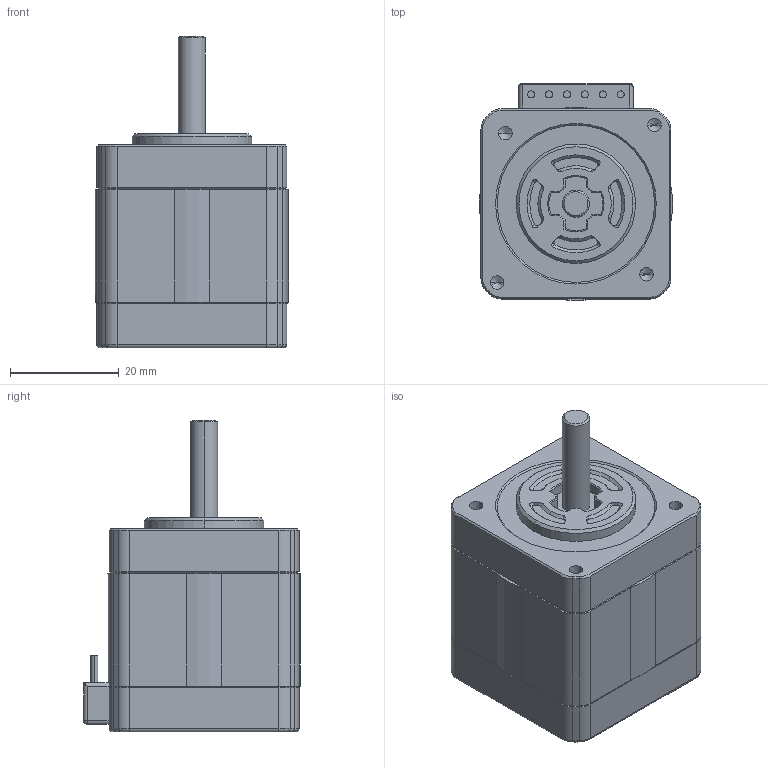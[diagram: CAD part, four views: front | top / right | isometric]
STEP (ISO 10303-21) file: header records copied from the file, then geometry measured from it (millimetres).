
FILE_DESCRIPTION (( 'STEP AP203' ), '1' );
FILE_NAME ('SH3537-12U40.STEP', '2012-10-17T07:15:56', ( 'sanyodenki-admin' ), ( '' ), 'SwSTEP 2.0', 'SolidWorks 2011', '' );
FILE_SCHEMA (( 'CONFIG_CONTROL_DESIGN' ));
Length unit declared in the file: millimetre
Products named in the file (1): SH3537-12U40
Bounding box: 35.57 x 39.97 x 57.4 mm (x, y, z)
Volume: 46834 mm3; surface area: 8627.8 mm2
Topology: 1 solids, 1 shells, 353 faces, 858 edges, 519 vertices
Faces by surface type: plane 116, cylinder 95, cone 94, bspline 34, torus 12, sphere 2
Entity records: 11055 total; most frequent: CARTESIAN_POINT 3023, ORIENTED_EDGE 1692, DIRECTION 1634, EDGE_CURVE 846, AXIS2_PLACEMENT_3D 642, VERTEX_POINT 519, EDGE_LOOP 377, ADVANCED_FACE 353
